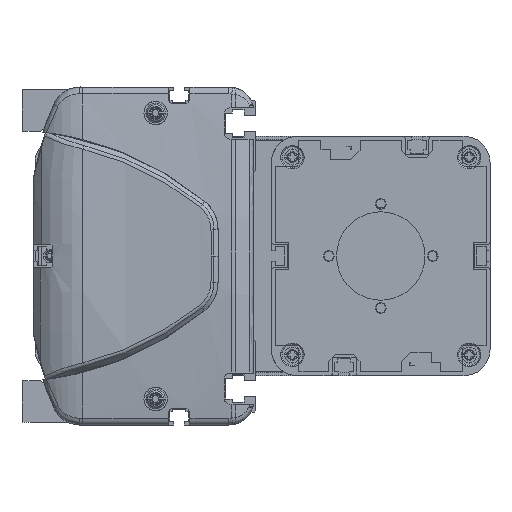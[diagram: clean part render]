
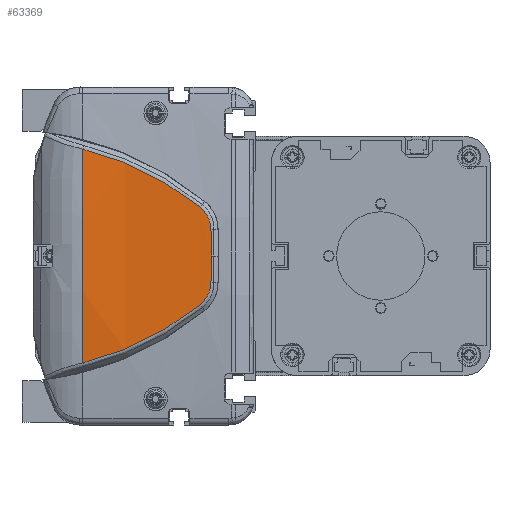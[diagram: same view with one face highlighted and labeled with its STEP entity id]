
A CAD part, left-side view. The second image highlights one B-rep face of the part: STEP entity #63369.
In plain terms, the highlighted cylindrical face has radius 500 mm (diameter 1000 mm), a partial arc.
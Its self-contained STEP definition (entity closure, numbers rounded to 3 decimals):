
#59609=CARTESIAN_POINT('',(-614.,66.962,0.));
#59610=DIRECTION('',(0.,-1.,0.));
#59611=DIRECTION('',(-0.997,0.,0.082));
#59612=AXIS2_PLACEMENT_3D('',#59609,#59610,#59611);
#60487=CARTESIAN_POINT('',(-1113.648,21.913,
-18.759));
#60488=CARTESIAN_POINT('',(-1113.449,28.504,
-24.058));
#60489=CARTESIAN_POINT('',(-1112.934,42.795,
-33.27));
#60490=CARTESIAN_POINT('',(-1112.471,58.756,
-39.127));
#60491=CARTESIAN_POINT('',(-1112.306,66.962,
-41.121));
#60493=CARTESIAN_POINT('',(-1112.306,66.962,
41.121));
#60494=CARTESIAN_POINT('',(-1112.471,58.756,
39.127));
#60495=CARTESIAN_POINT('',(-1112.934,42.795,
33.27));
#60496=CARTESIAN_POINT('',(-1113.449,28.504,
24.058));
#60497=CARTESIAN_POINT('',(-1113.648,21.913,
18.759));
#60499=CARTESIAN_POINT('',(-1113.648,21.913,
18.759));
#60500=CARTESIAN_POINT('',(-1113.686,20.635,
17.736));
#60501=CARTESIAN_POINT('',(-1113.779,18.536,
15.107));
#60502=CARTESIAN_POINT('',(-1113.863,17.752,
11.827));
#60503=CARTESIAN_POINT('',(-1113.896,17.724,
10.178));
#60505=CARTESIAN_POINT('',(-1113.896,17.724,
10.178));
#60506=CARTESIAN_POINT('',(-1113.92,17.707,
9.025));
#60507=CARTESIAN_POINT('',(-1113.959,17.667,
6.734));
#60508=CARTESIAN_POINT('',(-1113.993,17.58,
3.34));
#60509=CARTESIAN_POINT('',(-1114.,17.498,
1.108));
#60510=CARTESIAN_POINT('',(-1114.,17.449,
0.));
#60512=CARTESIAN_POINT('',(-1114.,17.449,
0.));
#60513=CARTESIAN_POINT('',(-1114.,17.498,
-1.108));
#60514=CARTESIAN_POINT('',(-1113.993,17.58,
-3.34));
#60515=CARTESIAN_POINT('',(-1113.959,17.667,
-6.733));
#60516=CARTESIAN_POINT('',(-1113.92,17.707,
-9.027));
#60517=CARTESIAN_POINT('',(-1113.896,17.724,
-10.18));
#60519=CARTESIAN_POINT('',(-1113.896,17.724,
-10.18));
#60520=CARTESIAN_POINT('',(-1113.863,17.752,
-11.828));
#60521=CARTESIAN_POINT('',(-1113.779,18.537,
-15.109));
#60522=CARTESIAN_POINT('',(-1113.686,20.635,
-17.736));
#60523=CARTESIAN_POINT('',(-1113.648,21.913,
-18.759));
#61189=VERTEX_POINT('',#60487);
#61190=VERTEX_POINT('',#60491);
#61191=CARTESIAN_POINT('',(-1112.306,66.962,
41.121));
#61192=VERTEX_POINT('',#61191);
#61193=VERTEX_POINT('',#60497);
#61194=VERTEX_POINT('',#60503);
#61195=VERTEX_POINT('',#60510);
#61196=VERTEX_POINT('',#60517);
#63350=CARTESIAN_POINT('',(-614.,8.606,0.));
#63351=DIRECTION('',(0.,1.,0.));
#63352=DIRECTION('',(1.,0.,0.));
#63353=AXIS2_PLACEMENT_3D('',#63350,#63351,#63352);
#63354=CYLINDRICAL_SURFACE('',#63353,500.);
#63356=ORIENTED_EDGE('',*,*,#63355,.T.);
#63357=ORIENTED_EDGE('',*,*,#61990,.F.);
#63359=ORIENTED_EDGE('',*,*,#63358,.T.);
#63361=ORIENTED_EDGE('',*,*,#63360,.T.);
#63363=ORIENTED_EDGE('',*,*,#63362,.T.);
#63365=ORIENTED_EDGE('',*,*,#63364,.T.);
#63366=ORIENTED_EDGE('',*,*,#63340,.T.);
#63367=EDGE_LOOP('',(#63356,#63357,#63359,#63361,#63363,#63365,#63366));
#63368=FACE_OUTER_BOUND('',#63367,.F.);
#63369=ADVANCED_FACE('',(#63368),#63354,.T.);
#59613=CIRCLE('',#59612,500.);
#60492=B_SPLINE_CURVE_WITH_KNOTS('',3,(#60487,#60488,#60489,#60490,#60491),
.UNSPECIFIED.,.F.,.F.,(4,1,4),(0.,0.5,1.),.UNSPECIFIED.);
#60498=B_SPLINE_CURVE_WITH_KNOTS('',3,(#60493,#60494,#60495,#60496,#60497),
.UNSPECIFIED.,.F.,.F.,(4,1,4),(0.,0.5,1.),.UNSPECIFIED.);
#60504=B_SPLINE_CURVE_WITH_KNOTS('',3,(#60499,#60500,#60501,#60502,#60503),
.UNSPECIFIED.,.F.,.F.,(4,1,4),(0.,0.5,1.),.UNSPECIFIED.);
#60511=B_SPLINE_CURVE_WITH_KNOTS('',3,(#60505,#60506,#60507,#60508,#60509,
#60510),.UNSPECIFIED.,.F.,.F.,(4,1,1,4),(0.,0.333,
0.667,1.),.UNSPECIFIED.);
#60518=B_SPLINE_CURVE_WITH_KNOTS('',3,(#60512,#60513,#60514,#60515,#60516,
#60517),.UNSPECIFIED.,.F.,.F.,(4,1,1,4),(0.,0.333,
0.667,1.),.UNSPECIFIED.);
#60524=B_SPLINE_CURVE_WITH_KNOTS('',3,(#60519,#60520,#60521,#60522,#60523),
.UNSPECIFIED.,.F.,.F.,(4,1,4),(0.,0.5,1.),.UNSPECIFIED.);
#61990=EDGE_CURVE('',#61192,#61190,#59613,.T.);
#63340=EDGE_CURVE('',#61196,#61189,#60524,.T.);
#63355=EDGE_CURVE('',#61189,#61190,#60492,.T.);
#63358=EDGE_CURVE('',#61192,#61193,#60498,.T.);
#63360=EDGE_CURVE('',#61193,#61194,#60504,.T.);
#63362=EDGE_CURVE('',#61194,#61195,#60511,.T.);
#63364=EDGE_CURVE('',#61195,#61196,#60518,.T.);
